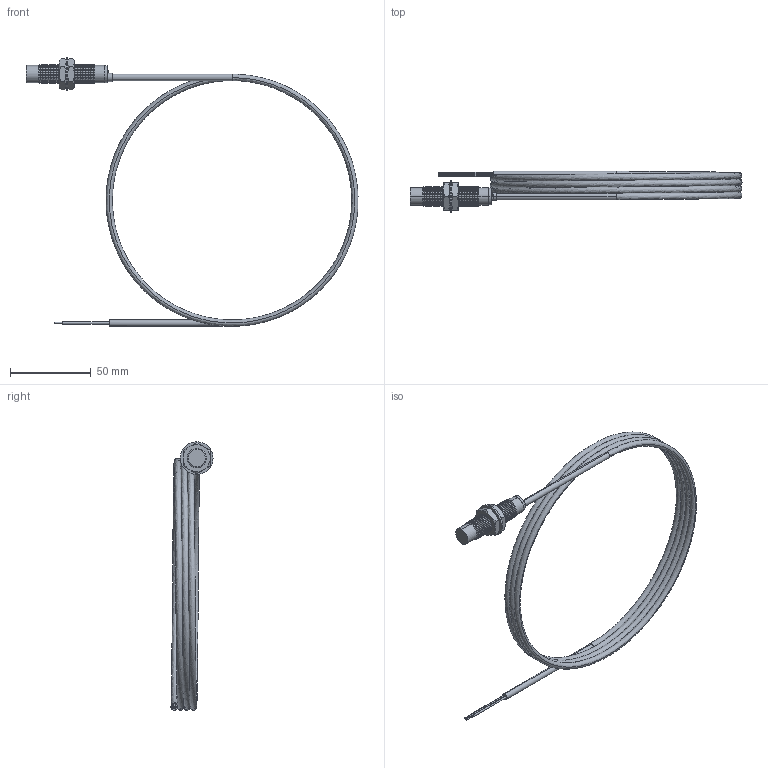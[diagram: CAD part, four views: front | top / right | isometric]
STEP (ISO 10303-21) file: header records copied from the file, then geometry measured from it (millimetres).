
FILE_DESCRIPTION (( 'STEP AP203' ), '1' );
FILE_NAME ('90-29417-070.STEP', '2015-11-30T02:38:20', ( 'Sam' ), ( 'Spade' ), 'SwSTEP 2.0', 'SolidWorks 2002296', '' );
FILE_SCHEMA (( 'CONFIG_CONTROL_DESIGN' ));
Length unit declared in the file: inch
Products named in the file (14): 90-29417-070; Imported49; Imported48; Imported41; Imported40; Imported39; Imported38; Imported37; Imported43; Imported42; Imported47; Imported46; Imported45; Imported44
Assembly tree (13 placements, depth 2):
  90-29417-070
    Imported46
    Imported45
    Imported41
    Imported42
    Imported39
    Imported43
    Imported48
    Imported38
    Imported37
    Imported49
    Imported40
    Imported44
    Imported47
Bounding box: 206.01 x 26.19 x 166.58 mm (x, y, z)
Volume: 29048.3 mm3; surface area: 28223.3 mm2
Topology: 13 solids, 13 shells, 392 faces, 833 edges, 464 vertices
Faces by surface type: cone 203, cylinder 108, plane 77, bspline 4
Entity records: 12874 total; most frequent: CARTESIAN_POINT 2870, DIRECTION 1936, ORIENTED_EDGE 1662, EDGE_CURVE 831, AXIS2_PLACEMENT_3D 764, VERTEX_POINT 464, LINE 408, VECTOR 408
